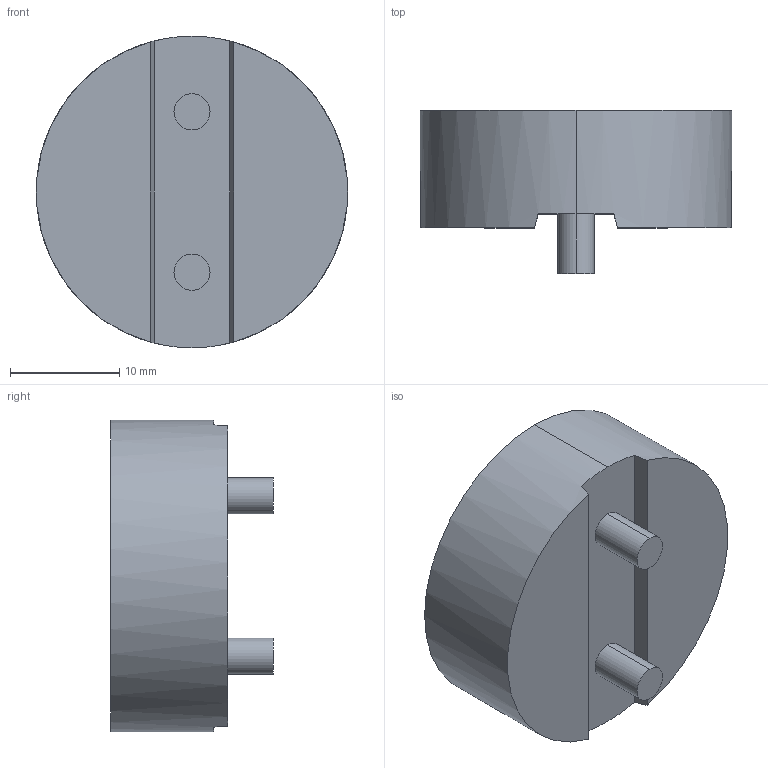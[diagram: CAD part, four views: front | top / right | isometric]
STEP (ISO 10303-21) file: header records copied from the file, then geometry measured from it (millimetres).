
FILE_DESCRIPTION (( 'STEP AP214' ), '1' );
FILE_NAME ('IHTH-1125KZ-5A 0.47uH.STEP', '2025-03-14T19:04:00', ( '' ), ( '' ), 'SwSTEP 2.0', 'SolidWorks 2024', '' );
FILE_SCHEMA (( 'AUTOMOTIVE_DESIGN' ));
Length unit declared in the file: inch
Products named in the file (1): IHTH-1125KZ-5A 0.47uH
Bounding box: 28.57 x 14.94 x 28.57 mm (x, y, z)
Volume: 6722.2 mm3; surface area: 2399.3 mm2
Topology: 1 solids, 1 shells, 202 faces, 522 edges, 348 vertices
Faces by surface type: plane 142, bspline 50, cylinder 10
Entity records: 9281 total; most frequent: CARTESIAN_POINT 4639, ORIENTED_EDGE 1044, DIRECTION 748, EDGE_CURVE 522, LINE 394, VECTOR 394, VERTEX_POINT 348, EDGE_LOOP 228
